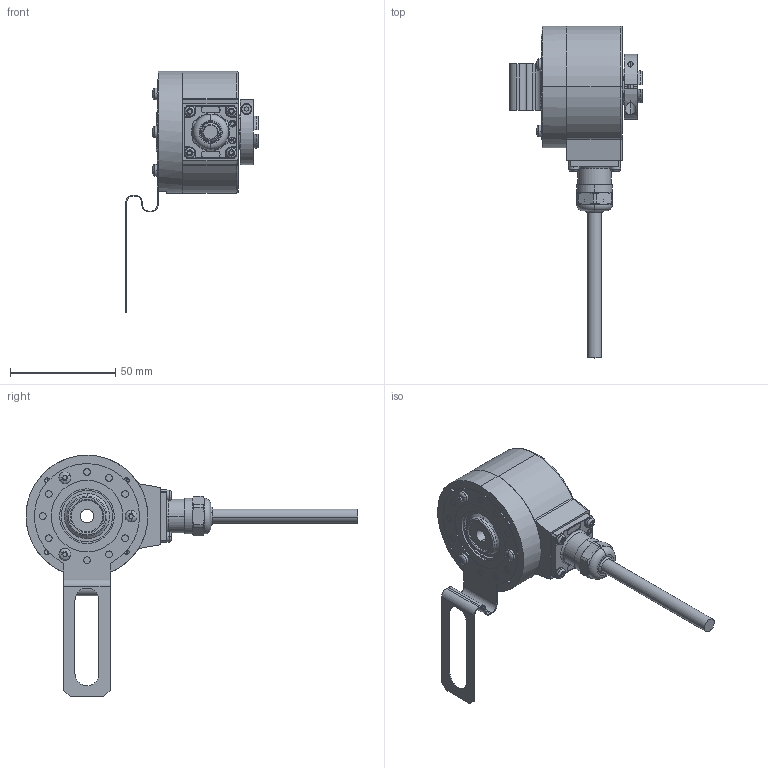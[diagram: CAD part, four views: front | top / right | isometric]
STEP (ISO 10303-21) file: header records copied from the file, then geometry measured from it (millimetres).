
FILE_DESCRIPTION (( 'STEP AP203' ), '1' );
FILE_NAME ('K58I.OXX.XXXXX.XC2451A.6XR11.XXXX.step', '2025-12-08T12:32:59', ( '' ), ( '' ), 'SwSTEP 2.0', 'SolidWorks 2021', '' );
FILE_SCHEMA (( 'CONFIG_CONTROL_DESIGN' ));
Length unit declared in the file: millimetre
Products named in the file (1): K58I.OXX.XXXXX.XC2451A.6XR11.XXXX
Bounding box: 62.99 x 158 x 115 mm (x, y, z)
Volume: 118357 mm3; surface area: 45661.7 mm2
Topology: 11 solids, 11 shells, 802 faces, 2047 edges, 1285 vertices
Faces by surface type: cylinder 387, plane 234, cone 77, bspline 46, torus 42, sphere 16
Entity records: 27598 total; most frequent: CARTESIAN_POINT 8149, DIRECTION 4133, ORIENTED_EDGE 4066, EDGE_CURVE 2033, AXIS2_PLACEMENT_3D 1617, VERTEX_POINT 1285, LINE 899, VECTOR 899
